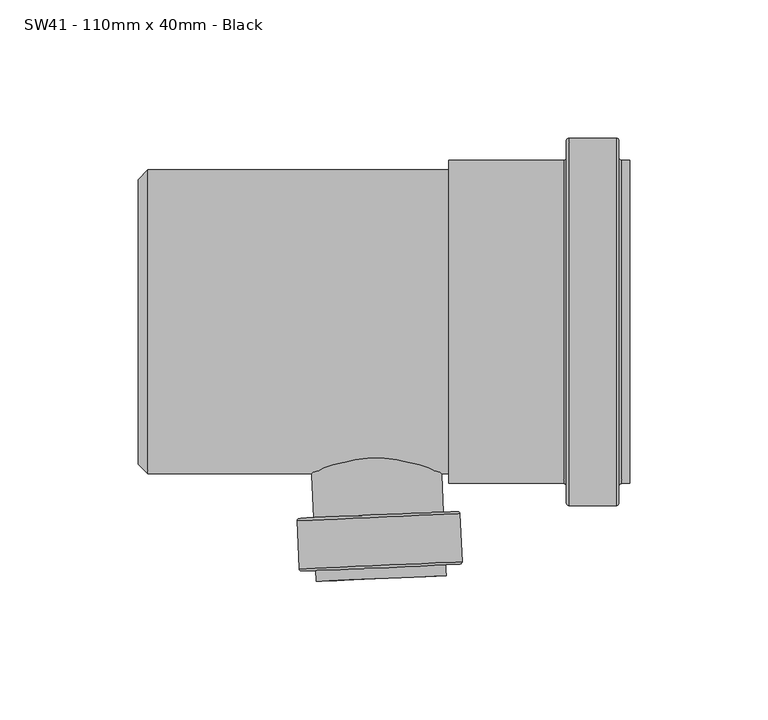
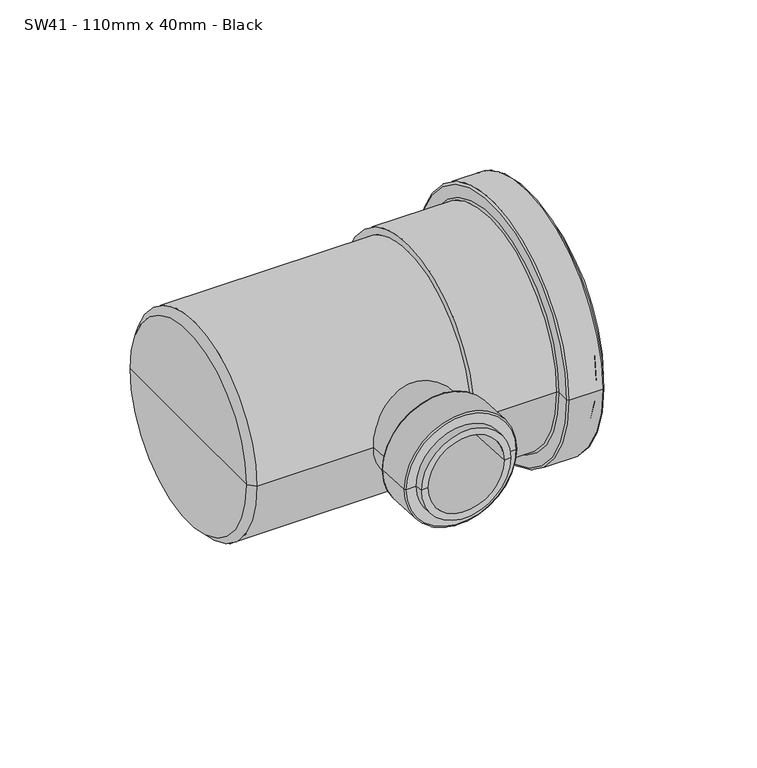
"""IFC4 building model written with IfcOpenShell, lengths in millimetres: pipe fitting geometry, MarleyPlumbingAndDrainage_PipeFitting_BossPipe87-5 : SW41 - 110mm x 40mm - Black."""

from ifc_helpers import new_model, si_unit, point, frame, origin, place, context, project, spatial, polyline, circle_curve, ellipse_curve, trimmed, source, transform, mapped, element, save
from ifc_brep_helpers import plane_surface, cylinder_surface, revolved_surface, advanced_brep


def sw41_110mm_x_40mm_black_7bb6f524(model_context):
    return source(origin(), model_context, "Body", "AdvancedBrep", [
        advanced_brep(
        [(-525.2928363, -89.9403473, 0.0), (-478.3375699, -87.8902361, 0.0), (-478.1630923, -91.886429, 0.0), (-525.1183587, -93.9365402, 0.0), (-527.2993281, -43.9841291, 0.0), (-480.3440617, -41.9340179, 0.0), (-479.1663382, -68.9083199, 0.0), (-526.1216046, -70.9584311, 0.0), (-503.8216949, -42.9590735, 0.0), (-521.62169, -93.7838724, 0.0), (-481.6597611, -92.0390969, 0.0), (-483.4045366, -52.077168, 0.0), (-523.3664654, -53.8219435, 0.0), (-530.487887, -90.1671681, 0.0), (-473.1425191, -87.6634153, 0.0), (-532.0809985, -72.019386, 0.0), (-473.1371534, -69.4458422, 0.0), (-472.378176, -86.8292812, 0.0), (-531.3220211, -89.4028251, 0.0), (-473.9712875, -68.6814991, 0.0), (-531.3166554, -71.1852519, 0.0), (-503.385501, -52.9495557, 0.0)],
        [
            (0, 1, circle_curve(frame((-501.8152031, -88.9152917, 0.0), z_axis=(0.043619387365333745, -0.9990482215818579, 0.0), x_axis=(0.9990482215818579, 0.043619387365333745, 0.0)), 23.5)),
            (1, 2),
            (2, 3, circle_curve(frame((-501.6407255, -92.9114846, 0.0), z_axis=(-0.043619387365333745, 0.9990482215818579, 0.0), x_axis=(0.9990482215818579, 0.043619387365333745, 0.0)), 23.5)),
            (3, 0),
            (1, 0, circle_curve(frame((-501.8152031, -88.9152917, 0.0), z_axis=(0.043619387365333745, -0.9990482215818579, 0.0), x_axis=(0.9990482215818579, 0.043619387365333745, 0.0)), 23.5)),
            (3, 2, circle_curve(frame((-501.6407255, -92.9114846, 0.0), z_axis=(-0.043619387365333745, 0.9990482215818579, 0.0), x_axis=(0.9990482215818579, 0.043619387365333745, 0.0)), 23.5)),
            (4, 5, circle_curve(frame((-503.8216949, -42.9590735, 0.0), z_axis=(0.043619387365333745, -0.9990482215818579, 0.0), x_axis=(0.9990482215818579, 0.043619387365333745, 0.0)), 23.5)),
            (5, 6),
            (6, 7, circle_curve(frame((-502.6439714, -69.9333755, 0.0), z_axis=(-0.043619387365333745, 0.9990482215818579, 0.0), x_axis=(0.9990482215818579, 0.043619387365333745, 0.0)), 23.5)),
            (7, 4),
            (5, 4, circle_curve(frame((-503.8216949, -42.9590735, 0.0), z_axis=(0.043619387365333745, -0.9990482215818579, 0.0), x_axis=(0.9990482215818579, 0.043619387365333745, 0.0)), 23.5)),
            (7, 6, circle_curve(frame((-502.6439714, -69.9333755, 0.0), z_axis=(-0.043619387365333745, 0.9990482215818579, 0.0), x_axis=(0.9990482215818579, 0.043619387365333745, 0.0)), 23.5)),
            (8, 5),
            (4, 8),
            (9, 10, circle_curve(frame((-501.6407255, -92.9114846, 0.0), z_axis=(0.043619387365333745, -0.9990482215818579, 0.0), x_axis=(0.9990482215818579, 0.043619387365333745, 0.0)), 20.0)),
            (10, 11),
            (11, 12, circle_curve(frame((-503.385501, -52.9495557, 0.0), z_axis=(-0.043619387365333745, 0.9990482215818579, 0.0), x_axis=(0.9990482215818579, 0.043619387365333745, 0.0)), 20.0)),
            (12, 9),
            (10, 9, circle_curve(frame((-501.6407255, -92.9114846, 0.0), z_axis=(0.043619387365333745, -0.9990482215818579, 0.0), x_axis=(0.9990482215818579, 0.043619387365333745, 0.0)), 20.0)),
            (12, 11, circle_curve(frame((-503.385501, -52.9495557, 0.0), z_axis=(-0.043619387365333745, 0.9990482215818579, 0.0), x_axis=(0.9990482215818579, 0.043619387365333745, 0.0)), 20.0)),
            (2, 10),
            (9, 3),
            (13, 14, circle_curve(frame((-501.8152031, -88.9152917, 0.0), z_axis=(0.043619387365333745, -0.9990482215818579, 0.0), x_axis=(0.9990482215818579, 0.043619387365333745, 0.0)), 28.7)),
            (14, 1),
            (0, 13),
            (14, 13, circle_curve(frame((-501.8152031, -88.9152917, 0.0), z_axis=(0.043619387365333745, -0.9990482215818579, 0.0), x_axis=(0.9990482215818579, 0.043619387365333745, 0.0)), 28.7)),
            (15, 16, circle_curve(frame((-502.6090759, -70.7326141, 0.0), z_axis=(0.043619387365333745, -0.9990482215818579, 0.0), x_axis=(0.9990482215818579, 0.043619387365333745, 0.0)), 29.5)),
            (16, 17),
            (17, 18, circle_curve(frame((-501.8500986, -88.1160531, 0.0), z_axis=(-0.043619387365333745, 0.9990482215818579, 0.0), x_axis=(0.9990482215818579, 0.043619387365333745, 0.0)), 29.5)),
            (18, 15),
            (16, 15, circle_curve(frame((-502.6090759, -70.7326141, 0.0), z_axis=(0.043619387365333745, -0.9990482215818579, 0.0), x_axis=(0.9990482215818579, 0.043619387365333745, 0.0)), 29.5)),
            (18, 17, circle_curve(frame((-501.8500986, -88.1160531, 0.0), z_axis=(-0.043619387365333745, 0.9990482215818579, 0.0), x_axis=(0.9990482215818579, 0.043619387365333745, 0.0)), 29.5)),
            (6, 19),
            (19, 20, circle_curve(frame((-502.6439714, -69.9333755, 0.0), z_axis=(-0.043619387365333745, 0.9990482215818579, 0.0), x_axis=(0.9990482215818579, 0.043619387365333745, 0.0)), 28.7)),
            (20, 7),
            (20, 19, circle_curve(frame((-502.6439714, -69.9333755, 0.0), z_axis=(-0.043619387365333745, 0.9990482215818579, 0.0), x_axis=(0.9990482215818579, 0.043619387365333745, 0.0)), 28.7)),
            (11, 21),
            (21, 12),
            (17, 14, circle_curve(frame((-473.1774146, -86.8641767, 0.0), z_axis=(0.0, 0.0, -1.0), x_axis=(-0.9961946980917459, -0.08715574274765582, 0.0)), 0.8)),
            (13, 18, circle_curve(frame((-530.5227825, -89.3679296, 0.0), z_axis=(0.0, 0.0, -1.0), x_axis=(1.0000000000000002, 0.0, 0.0)), 0.8)),
            (19, 16, circle_curve(frame((-473.936392, -69.4807377, 0.0), z_axis=(0.0, 0.0, -1.0), x_axis=(-0.9961946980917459, -0.08715574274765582, 0.0)), 0.8)),
            (15, 20, circle_curve(frame((-531.2817599, -71.9844905, 0.0), z_axis=(0.0, 0.0, -1.0), x_axis=(1.0000000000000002, 0.0, 0.0)), 0.8)),
        ],
        [
            cylinder_surface(frame((-500.8395755, -111.2608379, 0.0), z_axis=(-0.043619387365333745, 0.9990482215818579, 0.0), x_axis=(0.9990482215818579, 0.043619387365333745, 0.0)), 23.5),
            plane_surface(frame((-503.8216949, -42.9590735, 0.0), z_axis=(-0.043619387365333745, 0.9990482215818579, 0.0), x_axis=(0.9990482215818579, 0.043619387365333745, 0.0))),
            revolved_surface(polyline([(-483.4045366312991, -52.077167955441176, 0.0), (-481.65976113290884, -92.03909690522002, 0.0)]), (-500.8395755, -111.2608379, 0.0), (-0.043619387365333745, 0.9990482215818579, 0.0)),
            plane_surface(frame((-501.6407255, -92.9114846, 0.0), z_axis=(0.043619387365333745, -0.9990482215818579, 0.0), x_axis=(0.9990482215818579, 0.043619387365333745, 0.0))),
            plane_surface(frame((-501.8152031, -88.9152917, 0.0), z_axis=(0.043619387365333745, -0.9990482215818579, 0.0), x_axis=(0.9990482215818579, 0.043619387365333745, 0.0))),
            cylinder_surface(frame((-500.8395755, -111.2608379, 0.0), z_axis=(-0.043619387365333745, 0.9990482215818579, 0.0), x_axis=(0.9990482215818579, 0.043619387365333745, 0.0)), 29.5),
            plane_surface(frame((-502.6439714, -69.9333755, 0.0), z_axis=(-0.043619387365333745, 0.9990482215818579, 0.0), x_axis=(0.9990482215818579, 0.043619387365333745, 0.0))),
            plane_surface(frame((-503.385501, -52.9495557, 0.0), z_axis=(0.043619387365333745, -0.9990482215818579, 0.0), x_axis=(0.9990482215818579, 0.043619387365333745, 0.0))),
            revolved_surface(trimmed(ellipse_curve(frame((-473.1774146, -86.8641767, 0.0), z_axis=(0.0, 0.0, 1.0), x_axis=(-0.9961946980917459, -0.08715574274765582, 0.0)), 0.8, 0.8), [point((-473.1425191, -87.6634153, 0.0))], [point((-472.378176, -86.8292812, 0.0))], True, "CARTESIAN"), (-500.8395755, -111.2608379, 0.0), (-0.043619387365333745, 0.9990482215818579, 0.0)),
            revolved_surface(trimmed(ellipse_curve(frame((-473.936392, -69.4807377, 0.0), z_axis=(0.0, 0.0, 1.0), x_axis=(-0.9961946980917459, -0.08715574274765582, 0.0)), 0.8, 0.8), [point((-473.1371534, -69.4458422, 0.0))], [point((-473.9712875, -68.6814991, 0.0))], True, "CARTESIAN"), (-500.8395755, -111.2608379, 0.0), (-0.043619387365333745, 0.9990482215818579, 0.0)),
        ],
        [
            (0, [[1, 2, 3, 4]]),
            (0, [[5, -4, 6, -2]]),
            (0, [[7, 8, 9, 10]]),
            (0, [[11, -10, 12, -8]]),
            (1, [[13, -7, 14]]),
            (1, [[-14, -11, -13]]),
            (2, [[15, 16, 17, 18]]),
            (2, [[19, -18, 20, -16]]),
            (3, [[-3, 21, -15, 22]]),
            (3, [[-6, -22, -19, -21]]),
            (4, [[23, 24, -1, 25]]),
            (4, [[26, -25, -5, -24]]),
            (5, [[27, 28, 29, 30]]),
            (5, [[31, -30, 32, -28]]),
            (6, [[-9, 33, 34, 35]]),
            (6, [[-12, -35, 36, -33]]),
            (7, [[-17, 37, 38]]),
            (7, [[-20, -38, -37]]),
            (8, [[-29, 39, -23, 40]]),
            (8, [[-32, -40, -26, -39]]),
            (9, [[-34, 41, -27, 42]]),
            (9, [[-36, -42, -31, -41]]),
        ],
    ),
        advanced_brep(
        [(-414.6407255, -58.5, 0.0), (-414.6407255, 58.5, 0.0), (-411.6407255, 58.5, 0.0), (-411.6407255, -58.5, 0.0), (-415.6407255, -65.5, 0.0), (-415.6407255, 65.5, 0.0), (-415.6407255, 59.5, 0.0), (-415.6407255, -59.5, 0.0), (-433.6407255, -66.5, 0.0), (-433.6407255, 66.5, 0.0), (-416.6407255, 66.5, 0.0), (-416.6407255, -66.5, 0.0), (-434.6407255, -59.5, 0.0), (-434.6407255, 59.5, 0.0), (-434.6407255, 65.5, 0.0), (-434.6407255, -65.5, 0.0), (-477.1407255, -58.5, 0.0), (-477.1407255, 58.5, 0.0), (-435.6407255, 58.5, 0.0), (-435.6407255, -58.5, 0.0), (-477.1407255, -55.0, 0.0), (-477.1407255, 55.0, 0.0), (-586.1407255, -55.0, 0.0), (-586.1407255, 55.0, 0.0), (-589.6407255, -51.5, 0.0), (-589.6407255, 51.5, 0.0), (-589.6407255, 0.0, 0.0), (-473.6407255, -55.0, 0.0), (-473.6407255, 55.0, 0.0), (-473.6407255, 0.0, 0.0), (-411.6407255, -55.0, 0.0), (-411.6407255, 55.0, 0.0)],
        [
            (0, 1, circle_curve(frame((-414.6407255, 0.0, 0.0), z_axis=(1.0, 0.0, 0.0), x_axis=(0.0, 1.0, 0.0)), 58.5)),
            (1, 2),
            (2, 3, circle_curve(frame((-411.6407255, 0.0, 0.0), z_axis=(-1.0, 0.0, 0.0), x_axis=(0.0, 1.0, 0.0)), 58.5)),
            (3, 0),
            (1, 0, circle_curve(frame((-414.6407255, 0.0, 0.0), z_axis=(1.0, 0.0, 0.0), x_axis=(0.0, 1.0, 0.0)), 58.5)),
            (3, 2, circle_curve(frame((-411.6407255, 0.0, 0.0), z_axis=(-1.0, 0.0, 0.0), x_axis=(0.0, 1.0, 0.0)), 58.5)),
            (4, 5, circle_curve(frame((-415.6407255, 0.0, 0.0), z_axis=(1.0, 0.0, 0.0), x_axis=(0.0, 1.0, 0.0)), 65.5)),
            (5, 6),
            (6, 7, circle_curve(frame((-415.6407255, 0.0, 0.0), z_axis=(-1.0, 0.0, 0.0), x_axis=(0.0, 1.0, 0.0)), 59.5)),
            (7, 4),
            (5, 4, circle_curve(frame((-415.6407255, 0.0, 0.0), z_axis=(1.0, 0.0, 0.0), x_axis=(0.0, 1.0, 0.0)), 65.5)),
            (7, 6, circle_curve(frame((-415.6407255, 0.0, 0.0), z_axis=(-1.0, 0.0, 0.0), x_axis=(0.0, 1.0, 0.0)), 59.5)),
            (8, 9, circle_curve(frame((-433.6407255, 0.0, 0.0), z_axis=(1.0, 0.0, 0.0), x_axis=(0.0, 1.0, 0.0)), 66.5)),
            (9, 10),
            (10, 11, circle_curve(frame((-416.6407255, 0.0, 0.0), z_axis=(-1.0, 0.0, 0.0), x_axis=(0.0, 1.0, 0.0)), 66.5)),
            (11, 8),
            (9, 8, circle_curve(frame((-433.6407255, 0.0, 0.0), z_axis=(1.0, 0.0, 0.0), x_axis=(0.0, 1.0, 0.0)), 66.5)),
            (11, 10, circle_curve(frame((-416.6407255, 0.0, 0.0), z_axis=(-1.0, 0.0, 0.0), x_axis=(0.0, 1.0, 0.0)), 66.5)),
            (12, 13, circle_curve(frame((-434.6407255, 0.0, 0.0), z_axis=(1.0, 0.0, 0.0), x_axis=(0.0, 1.0, 0.0)), 59.5)),
            (13, 14),
            (14, 15, circle_curve(frame((-434.6407255, 0.0, 0.0), z_axis=(-1.0, 0.0, 0.0), x_axis=(0.0, 1.0, 0.0)), 65.5)),
            (15, 12),
            (13, 12, circle_curve(frame((-434.6407255, 0.0, 0.0), z_axis=(1.0, 0.0, 0.0), x_axis=(0.0, 1.0, 0.0)), 59.5)),
            (15, 14, circle_curve(frame((-434.6407255, 0.0, 0.0), z_axis=(-1.0, 0.0, 0.0), x_axis=(0.0, 1.0, 0.0)), 65.5)),
            (16, 17, circle_curve(frame((-477.1407255, 0.0, 0.0), z_axis=(1.0, 0.0, 0.0), x_axis=(0.0, 1.0, 0.0)), 58.5)),
            (17, 18),
            (18, 19, circle_curve(frame((-435.6407255, 0.0, 0.0), z_axis=(-1.0, 0.0, 0.0), x_axis=(0.0, 1.0, 0.0)), 58.5)),
            (19, 16),
            (17, 16, circle_curve(frame((-477.1407255, 0.0, 0.0), z_axis=(1.0, 0.0, 0.0), x_axis=(0.0, 1.0, 0.0)), 58.5)),
            (19, 18, circle_curve(frame((-435.6407255, 0.0, 0.0), z_axis=(-1.0, 0.0, 0.0), x_axis=(0.0, 1.0, 0.0)), 58.5)),
            (20, 21, circle_curve(frame((-477.1407255, 0.0, 0.0), z_axis=(1.0, 0.0, 0.0), x_axis=(0.0, 1.0, 0.0)), 55.0)),
            (21, 17),
            (16, 20),
            (21, 20, circle_curve(frame((-477.1407255, 0.0, 0.0), z_axis=(1.0, 0.0, 0.0), x_axis=(0.0, 1.0, 0.0)), 55.0)),
            (22, 23, circle_curve(frame((-586.1407255, 0.0, 0.0), z_axis=(1.0, 0.0, 0.0), x_axis=(0.0, 1.0, 0.0)), 55.0)),
            (23, 21),
            (20, 22),
            (23, 22, circle_curve(frame((-586.1407255, 0.0, 0.0), z_axis=(1.0, 0.0, 0.0), x_axis=(0.0, 1.0, 0.0)), 55.0)),
            (24, 25, circle_curve(frame((-589.6407255, 0.0, 0.0), z_axis=(1.0, 0.0, 0.0), x_axis=(0.0, 1.0, 0.0)), 51.5)),
            (25, 23),
            (22, 24),
            (25, 24, circle_curve(frame((-589.6407255, 0.0, 0.0), z_axis=(1.0, 0.0, 0.0), x_axis=(0.0, 1.0, 0.0)), 51.5)),
            (26, 25),
            (24, 26),
            (27, 28, circle_curve(frame((-473.6407255, 0.0, 0.0), z_axis=(1.0, 0.0, 0.0), x_axis=(0.0, 1.0, 0.0)), 55.0)),
            (28, 29),
            (29, 27),
            (28, 27, circle_curve(frame((-473.6407255, 0.0, 0.0), z_axis=(1.0, 0.0, 0.0), x_axis=(0.0, 1.0, 0.0)), 55.0)),
            (30, 31, circle_curve(frame((-411.6407255, 0.0, 0.0), z_axis=(1.0, 0.0, 0.0), x_axis=(0.0, 1.0, 0.0)), 55.0)),
            (31, 28),
            (27, 30),
            (31, 30, circle_curve(frame((-411.6407255, 0.0, 0.0), z_axis=(1.0, 0.0, 0.0), x_axis=(0.0, 1.0, 0.0)), 55.0)),
            (2, 31),
            (30, 3),
            (6, 1, circle_curve(frame((-414.6407255, 59.5, 0.0), z_axis=(0.0, 0.0, 1.0), x_axis=(1.0, 0.0, 0.0)), 1.0)),
            (0, 7, circle_curve(frame((-414.6407255, -59.5, 0.0), z_axis=(0.0, 0.0, 1.0), x_axis=(1.0, 0.0, 0.0)), 1.0)),
            (10, 5, circle_curve(frame((-416.6407255, 65.5, 0.0), z_axis=(0.0, 0.0, -1.0), x_axis=(1.0, 0.0, 0.0)), 1.0)),
            (4, 11, circle_curve(frame((-416.6407255, -65.5, 0.0), z_axis=(0.0, 0.0, -1.0), x_axis=(1.0, 0.0, 0.0)), 1.0)),
            (14, 9, circle_curve(frame((-433.6407255, 65.5, 0.0), z_axis=(0.0, 0.0, -1.0), x_axis=(1.0, 0.0, 0.0)), 1.0)),
            (8, 15, circle_curve(frame((-433.6407255, -65.5, 0.0), z_axis=(0.0, 0.0, -1.0), x_axis=(1.0, 0.0, 0.0)), 1.0)),
            (18, 13, circle_curve(frame((-435.6407255, 59.5, 0.0), z_axis=(0.0, 0.0, 1.0), x_axis=(1.0, 0.0, 0.0)), 1.0)),
            (12, 19, circle_curve(frame((-435.6407255, -59.5, 0.0), z_axis=(0.0, 0.0, 1.0), x_axis=(1.0, 0.0, 0.0)), 1.0)),
        ],
        [
            cylinder_surface(frame((2005.056603, 0.0, 0.0), z_axis=(-1.0, 0.0, 0.0), x_axis=(0.0, 1.0, 0.0)), 58.5),
            plane_surface(frame((-415.6407255, 0.0, 0.0), z_axis=(1.0, 0.0, 0.0), x_axis=(0.0, 1.0, 0.0))),
            cylinder_surface(frame((2005.056603, 0.0, 0.0), z_axis=(-1.0, 0.0, 0.0), x_axis=(0.0, 1.0, 0.0)), 66.5),
            plane_surface(frame((-434.6407255, 0.0, 0.0), z_axis=(-1.0, 0.0, 0.0), x_axis=(0.0, 1.0, 0.0))),
            plane_surface(frame((-477.1407255, 0.0, 0.0), z_axis=(-1.0, 0.0, 0.0), x_axis=(0.0, 1.0, 0.0))),
            cylinder_surface(frame((2005.056603, 0.0, 0.0), z_axis=(-1.0, 0.0, 0.0), x_axis=(0.0, 1.0, 0.0)), 55.0),
            revolved_surface(polyline([(-586.1407255, 55.0, 0.0), (-589.6407255, 51.5, 0.0)]), (2005.056603, 0.0, 0.0), (-1.0, 0.0, 0.0)),
            plane_surface(frame((-589.6407255, 0.0, 0.0), z_axis=(-1.0, 0.0, 0.0), x_axis=(0.0, 1.0, 0.0))),
            plane_surface(frame((-473.6407255, 0.0, 0.0), z_axis=(1.0, 0.0, 0.0), x_axis=(0.0, 1.0, 0.0))),
            revolved_surface(polyline([(-473.6407254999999, 55.0, 0.0), (-411.6407254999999, 55.0, 0.0)]), (2005.056603, 0.0, 0.0), (-1.0, 0.0, 0.0)),
            plane_surface(frame((-411.6407255, 0.0, 0.0), z_axis=(1.0, 0.0, 0.0), x_axis=(0.0, 1.0, 0.0))),
            revolved_surface(trimmed(ellipse_curve(frame((-414.6407255, 59.5, 0.0), z_axis=(0.0, 0.0, -1.0), x_axis=(1.0, 0.0, 0.0)), 1.0, 1.0), [point((-414.6407255, 58.5, 0.0))], [point((-415.6407255, 59.5, 0.0))], True, "CARTESIAN"), (2005.056603, 0.0, 0.0), (-1.0, 0.0, 0.0)),
            revolved_surface(trimmed(ellipse_curve(frame((-416.6407255, 65.5, 0.0), z_axis=(0.0, 0.0, 1.0), x_axis=(1.0, 0.0, 0.0)), 1.0, 1.0), [point((-415.6407255, 65.5, 0.0))], [point((-416.6407255, 66.5, 0.0))], True, "CARTESIAN"), (2005.056603, 0.0, 0.0), (-1.0, 0.0, 0.0)),
            revolved_surface(trimmed(ellipse_curve(frame((-433.6407255, 65.5, 0.0), z_axis=(0.0, 0.0, 1.0), x_axis=(1.0, 0.0, 0.0)), 1.0, 1.0), [point((-433.6407255, 66.5, 0.0))], [point((-434.6407255, 65.5, 0.0))], True, "CARTESIAN"), (2005.056603, 0.0, 0.0), (-1.0, 0.0, 0.0)),
            revolved_surface(trimmed(ellipse_curve(frame((-435.6407255, 59.5, 0.0), z_axis=(0.0, 0.0, -1.0), x_axis=(1.0, 0.0, 0.0)), 1.0, 1.0), [point((-434.6407255, 59.5, 0.0))], [point((-435.6407255, 58.5, 0.0))], True, "CARTESIAN"), (2005.056603, 0.0, 0.0), (-1.0, 0.0, 0.0)),
        ],
        [
            (0, [[1, 2, 3, 4]]),
            (0, [[5, -4, 6, -2]]),
            (1, [[7, 8, 9, 10]]),
            (1, [[11, -10, 12, -8]]),
            (2, [[13, 14, 15, 16]]),
            (2, [[17, -16, 18, -14]]),
            (3, [[19, 20, 21, 22]]),
            (3, [[23, -22, 24, -20]]),
            (0, [[25, 26, 27, 28]]),
            (0, [[29, -28, 30, -26]]),
            (4, [[31, 32, -25, 33]]),
            (4, [[34, -33, -29, -32]]),
            (5, [[35, 36, -31, 37]]),
            (5, [[38, -37, -34, -36]]),
            (6, [[39, 40, -35, 41]]),
            (6, [[42, -41, -38, -40]]),
            (7, [[43, -39, 44]]),
            (7, [[-44, -42, -43]]),
            (8, [[45, 46, 47]]),
            (8, [[48, -47, -46]]),
            (9, [[49, 50, -45, 51]]),
            (9, [[52, -51, -48, -50]]),
            (10, [[-3, 53, -49, 54]]),
            (10, [[-6, -54, -52, -53]]),
            (11, [[-9, 55, -1, 56]]),
            (11, [[-12, -56, -5, -55]]),
            (12, [[-15, 57, -7, 58]]),
            (12, [[-18, -58, -11, -57]]),
            (13, [[-21, 59, -13, 60]]),
            (13, [[-24, -60, -17, -59]]),
            (14, [[-27, 61, -19, 62]]),
            (14, [[-30, -62, -23, -61]]),
        ],
    ),
    ])


if __name__ == "__main__":
    model = new_model("IFC4")
    model_context = context("Model", 3, world=origin())
    ifc_project = project(units=[si_unit("LENGTHUNIT", "METRE", prefix="MILLI")], contexts=[model_context])
    site = spatial("IfcSite", under=ifc_project)
    building = spatial("IfcBuilding", under=site)
    placement = place(None, origin())
    sw41_110mm_x_40mm_black_shape = sw41_110mm_x_40mm_black_7bb6f524(model_context)
    element("IfcPipeFitting", 1, ObjectType="MarleyPlumbingAndDrainage_PipeFitting_BossPipe87-5 : SW41 - 110mm x 40mm - Black", at=placement, inside=building, context=model_context, shape_type="MappedRepresentation", body=[
        mapped(sw41_110mm_x_40mm_black_shape, transform((0.0, 0.0, 0.0), x_axis=(1.0, 0.0, 0.0), y_axis=(0.0, 1.0, 0.0), z_axis=(0.0, 0.0, 1.0))),
    ])
    save(model, "model.ifc")
